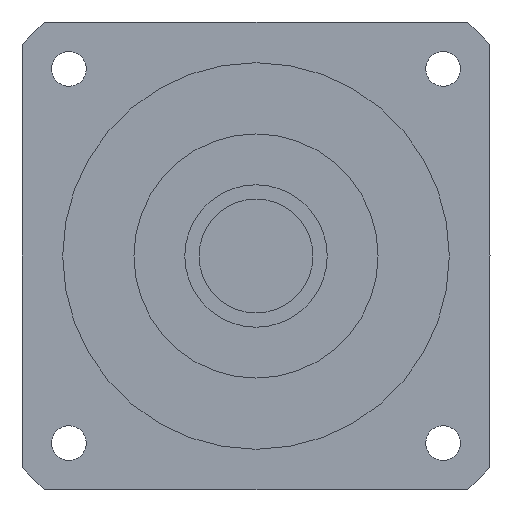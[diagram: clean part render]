
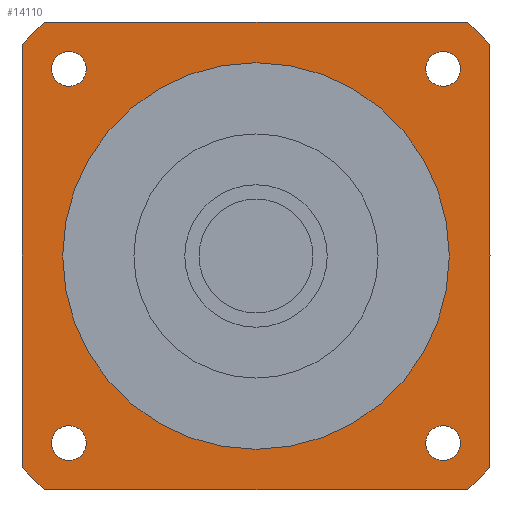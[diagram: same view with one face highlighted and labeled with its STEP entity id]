
A CAD part, left-side view. The second image highlights one B-rep face of the part: STEP entity #14110.
In plain terms, the highlighted planar face has unit normal (-1, 0, 0) as drawn and (0, 0, -1) by its records, which use the part's own axes.
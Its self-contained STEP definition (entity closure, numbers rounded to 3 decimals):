
#11300=CARTESIAN_POINT('',(-51.962,57.5,-65.6));
#11310=VERTEX_POINT('',#11300);
#11340=CARTESIAN_POINT('',(-57.5,57.5,-65.6));
#11350=DIRECTION('',(1.,0.,0.));
#11360=VECTOR('',#11350,1000.);
#11370=LINE('',#11340,#11360);
#11380=CARTESIAN_POINT('',(51.962,57.5,-65.6));
#11390=VERTEX_POINT('',#11380);
#11400=EDGE_CURVE('',#11310,#11390,#11370,.T.);
#11630=CARTESIAN_POINT('',(-57.5,51.962,-65.6));
#11640=VERTEX_POINT('',#11630);
#11670=CARTESIAN_POINT('',(0.,0.,
-65.6));
#11680=DIRECTION('',(0.,0.,-1.));
#11690=DIRECTION('',(1.,0.,0.));
#11700=AXIS2_PLACEMENT_3D('',#11670,#11680,#11690);
#11710=CIRCLE('',#11700,77.5);
#11720=EDGE_CURVE('',#11640,#11310,#11710,.T.);
#11860=CARTESIAN_POINT('',(-51.962,-57.5,-65.6));
#11870=VERTEX_POINT('',#11860);
#11900=CARTESIAN_POINT('',(0.,0.,
-65.6));
#11910=DIRECTION('',(0.,0.,-1.));
#11920=DIRECTION('',(1.,0.,0.));
#11930=AXIS2_PLACEMENT_3D('',#11900,#11910,#11920);
#11940=CIRCLE('',#11930,77.5);
#11950=CARTESIAN_POINT('',(-57.5,-51.962,-65.6));
#11960=VERTEX_POINT('',#11950);
#11970=EDGE_CURVE('',#11870,#11960,#11940,.T.);
#12180=CARTESIAN_POINT('',(51.962,-57.5,-65.6));
#12190=VERTEX_POINT('',#12180);
#12220=CARTESIAN_POINT('',(57.5,-57.5,-65.6));
#12230=DIRECTION('',(-1.,0.,0.));
#12240=VECTOR('',#12230,1000.);
#12250=LINE('',#12220,#12240);
#12260=EDGE_CURVE('',#12190,#11870,#12250,.T.);
#12390=CARTESIAN_POINT('',(-57.5,-57.5,-65.6));
#12400=DIRECTION('',(0.,1.,0.));
#12410=VECTOR('',#12400,1000.);
#12420=LINE('',#12390,#12410);
#12430=EDGE_CURVE('',#11960,#11640,#12420,.T.);
#12560=CARTESIAN_POINT('',(0.,0.,
-65.6));
#12570=DIRECTION('',(0.,0.,-1.));
#12580=DIRECTION('',(1.,0.,0.));
#12590=AXIS2_PLACEMENT_3D('',#12560,#12570,#12580);
#12600=CIRCLE('',#12590,77.5);
#12610=CARTESIAN_POINT('',(57.5,51.962,-65.6));
#12620=VERTEX_POINT('',#12610);
#12630=EDGE_CURVE('',#11390,#12620,#12600,.T.);
#12840=CARTESIAN_POINT('',(57.5,-51.962,-65.6));
#12850=VERTEX_POINT('',#12840);
#12880=CARTESIAN_POINT('',(0.,0.,
-65.6));
#12890=DIRECTION('',(0.,0.,-1.));
#12900=DIRECTION('',(1.,0.,0.));
#12910=AXIS2_PLACEMENT_3D('',#12880,#12890,#12900);
#12920=CIRCLE('',#12910,77.5);
#12930=EDGE_CURVE('',#12850,#12190,#12920,.T.);
#13060=CARTESIAN_POINT('',(57.5,57.5,-65.6));
#13070=DIRECTION('',(0.,-1.,0.));
#13080=VECTOR('',#13070,1000.);
#13090=LINE('',#13060,#13080);
#13100=EDGE_CURVE('',#12620,#12850,#13090,.T.);
#13170=CARTESIAN_POINT('',(57.5,57.5,-65.6));
#13180=DIRECTION('',(0.,0.,-1.));
#13190=DIRECTION('',(1.,0.,0.));
#13200=AXIS2_PLACEMENT_3D('',#13170,#13180,#13190);
#13210=PLANE('',#13200);
#13220=CARTESIAN_POINT('',(-45.962,-45.962,-65.6));
#13230=DIRECTION('',(0.,0.,-1.));
#13240=DIRECTION('',(0.,-1.,0.));
#13250=AXIS2_PLACEMENT_3D('',#13220,#13230,#13240);
#13260=CIRCLE('',#13250,4.25);
#13270=CARTESIAN_POINT('',(-45.962,-50.212,-65.6));
#13280=VERTEX_POINT('',#13270);
#13290=CARTESIAN_POINT('',(-45.962,-41.712,-65.6));
#13300=VERTEX_POINT('',#13290);
#13310=EDGE_CURVE('',#13280,#13300,#13260,.T.);
#13320=ORIENTED_EDGE('',*,*,#13310,.F.);
#13330=EDGE_CURVE('',#13300,#13280,#13260,.T.);
#13340=ORIENTED_EDGE('',*,*,#13330,.F.);
#13350=EDGE_LOOP('',(#13340,#13320));
#13360=FACE_BOUND('',#13350,.T.);
#13370=CARTESIAN_POINT('',(-45.962,45.962,-65.6));
#13380=DIRECTION('',(0.,0.,-1.));
#13390=DIRECTION('',(-1.,0.,0.));
#13400=AXIS2_PLACEMENT_3D('',#13370,#13380,#13390);
#13410=CIRCLE('',#13400,4.25);
#13420=CARTESIAN_POINT('',(-50.212,45.962,-65.6));
#13430=VERTEX_POINT('',#13420);
#13440=CARTESIAN_POINT('',(-41.712,45.962,-65.6));
#13450=VERTEX_POINT('',#13440);
#13460=EDGE_CURVE('',#13430,#13450,#13410,.T.);
#13470=ORIENTED_EDGE('',*,*,#13460,.F.);
#13480=EDGE_CURVE('',#13450,#13430,#13410,.T.);
#13490=ORIENTED_EDGE('',*,*,#13480,.F.);
#13500=EDGE_LOOP('',(#13490,#13470));
#13510=FACE_BOUND('',#13500,.T.);
#13520=CARTESIAN_POINT('',(45.962,45.962,-65.6));
#13530=DIRECTION('',(0.,0.,-1.));
#13540=DIRECTION('',(0.,1.,0.));
#13550=AXIS2_PLACEMENT_3D('',#13520,#13530,#13540);
#13560=CIRCLE('',#13550,4.25);
#13570=CARTESIAN_POINT('',(45.962,50.212,-65.6));
#13580=VERTEX_POINT('',#13570);
#13590=CARTESIAN_POINT('',(45.962,41.712,-65.6));
#13600=VERTEX_POINT('',#13590);
#13610=EDGE_CURVE('',#13580,#13600,#13560,.T.);
#13620=ORIENTED_EDGE('',*,*,#13610,.F.);
#13630=EDGE_CURVE('',#13600,#13580,#13560,.T.);
#13640=ORIENTED_EDGE('',*,*,#13630,.F.);
#13650=EDGE_LOOP('',(#13640,#13620));
#13660=FACE_BOUND('',#13650,.T.);
#13670=CARTESIAN_POINT('',(0.,0.,
-65.6));
#13680=DIRECTION('',(0.,0.,1.));
#13690=DIRECTION('',(0.,1.,0.));
#13700=AXIS2_PLACEMENT_3D('',#13670,#13680,#13690);
#13710=CIRCLE('',#13700,47.5);
#13720=CARTESIAN_POINT('',(-47.5,0.,-65.6));
#13730=VERTEX_POINT('',#13720);
#13740=CARTESIAN_POINT('',(47.5,0.,-65.6));
#13750=VERTEX_POINT('',#13740);
#13760=EDGE_CURVE('',#13730,#13750,#13710,.T.);
#13770=ORIENTED_EDGE('',*,*,#13760,.T.);
#13780=CARTESIAN_POINT('',(0.,47.5,-65.6));
#13790=VERTEX_POINT('',#13780);
#13800=EDGE_CURVE('',#13790,#13730,#13710,.T.);
#13810=ORIENTED_EDGE('',*,*,#13800,.T.);
#13820=EDGE_CURVE('',#13750,#13790,#13710,.T.);
#13830=ORIENTED_EDGE('',*,*,#13820,.T.);
#13840=EDGE_LOOP('',(#13830,#13810,#13770));
#13850=FACE_BOUND('',#13840,.T.);
#13860=ORIENTED_EDGE('',*,*,#11400,.T.);
#13870=ORIENTED_EDGE('',*,*,#11720,.T.);
#13880=ORIENTED_EDGE('',*,*,#12430,.T.);
#13890=ORIENTED_EDGE('',*,*,#11970,.T.);
#13900=ORIENTED_EDGE('',*,*,#12260,.T.);
#13910=ORIENTED_EDGE('',*,*,#12930,.T.);
#13920=ORIENTED_EDGE('',*,*,#13100,.T.);
#13930=ORIENTED_EDGE('',*,*,#12630,.T.);
#13940=EDGE_LOOP('',(#13930,#13920,#13910,#13900,#13890,#13880,#13870,
#13860));
#13950=FACE_OUTER_BOUND('',#13940,.T.);
#13960=CARTESIAN_POINT('',(45.962,-45.962,-65.6));
#13970=DIRECTION('',(0.,0.,-1.));
#13980=DIRECTION('',(1.,0.,0.));
#13990=AXIS2_PLACEMENT_3D('',#13960,#13970,#13980);
#14000=CIRCLE('',#13990,4.25);
#14010=CARTESIAN_POINT('',(50.212,-45.962,-65.6));
#14020=VERTEX_POINT('',#14010);
#14030=CARTESIAN_POINT('',(41.712,-45.962,-65.6));
#14040=VERTEX_POINT('',#14030);
#14050=EDGE_CURVE('',#14020,#14040,#14000,.T.);
#14060=ORIENTED_EDGE('',*,*,#14050,.F.);
#14070=EDGE_CURVE('',#14040,#14020,#14000,.T.);
#14080=ORIENTED_EDGE('',*,*,#14070,.F.);
#14090=EDGE_LOOP('',(#14080,#14060));
#14100=FACE_BOUND('',#14090,.T.);
#14110=ADVANCED_FACE('',(#13360,#13510,#13660,#13850,#13950,#14100),
#13210,.T.);
